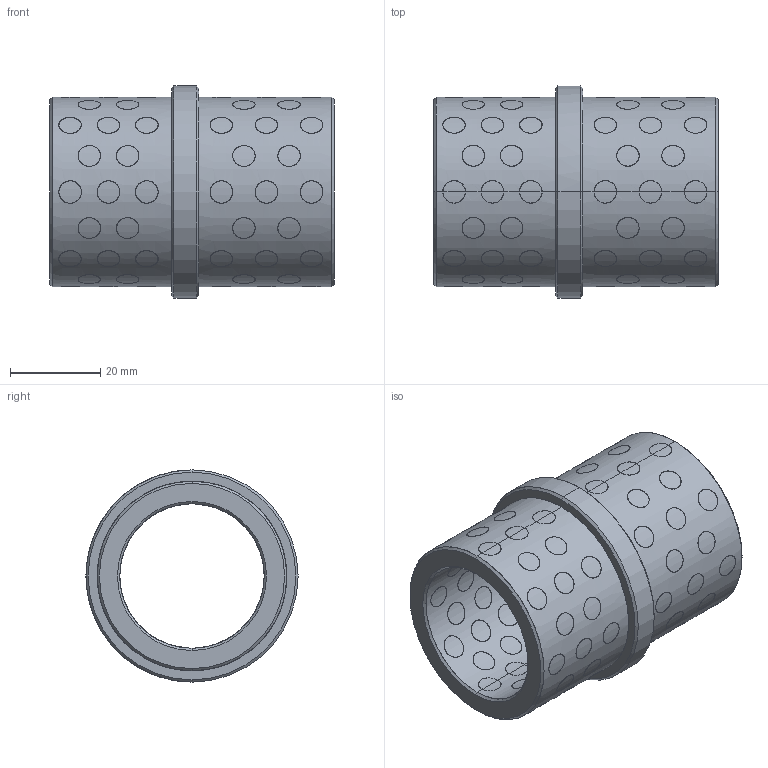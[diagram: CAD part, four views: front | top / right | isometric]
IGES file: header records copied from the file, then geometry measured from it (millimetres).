
Start section: START RECORD GO HERE.
Global section: file name: G3133236.igs; native system: DASSAULT SYSTEMES CATIA V5 R20 - www.3ds.com; preprocessor: CATIA Version 5 Release 20 ; author: r.borello; organization: CFTORINO; date: 20190624.132712; units: millimetre
Bounding box: 63 x 47 x 47 mm (x, y, z)
Surface area: 28877.3 mm2 (no closed solid volume)
Topology: 0 solids, 0 shells, 528 faces, 2304 edges, 2304 vertices
Faces by surface type: revolution 524, plane 4
